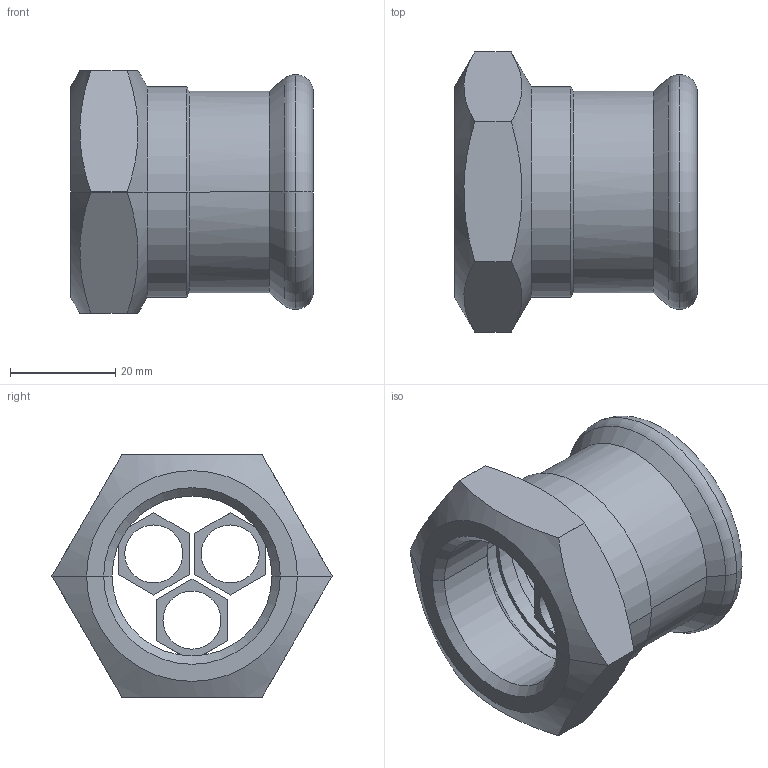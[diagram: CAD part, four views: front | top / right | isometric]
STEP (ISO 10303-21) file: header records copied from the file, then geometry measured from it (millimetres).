
FILE_DESCRIPTION(('OneSpaceDesigner STEP Export'),'2;1');
FILE_NAME('R2702 35xRp1.stp','2010-06-08T15:13:16',(''),(''),'OneSpace Designer STEP processor for AP214 (Solid Model)','OneSpace Modeling 15.00A 14-Mar-2007 (C) CoCreate Software GmbH','');
FILE_SCHEMA(('AUTOMOTIVE_DESIGN { 1 0 10303 214 1 1 1 1 }'));
Length unit declared in the file: millimetre
Products named in the file (2): R2702_35xRp1
Assembly tree (1 placements, depth 2):
  R2702_35xRp1
    R2702_35xRp1
Bounding box: 46 x 53.1 x 46 mm (x, y, z)
Volume: 24129.3 mm3; surface area: 13980.6 mm2
Topology: 1 solids, 1 shells, 91 faces, 230 edges, 145 vertices
Faces by surface type: plane 36, cylinder 33, cone 18, torus 4
Entity records: 5286 total; most frequent: CARTESIAN_POINT 3340, ORIENTED_EDGE 460, DIRECTION 291, EDGE_CURVE 230, VERTEX_POINT 145, VECTOR 109, LINE 109, EDGE_LOOP 103
